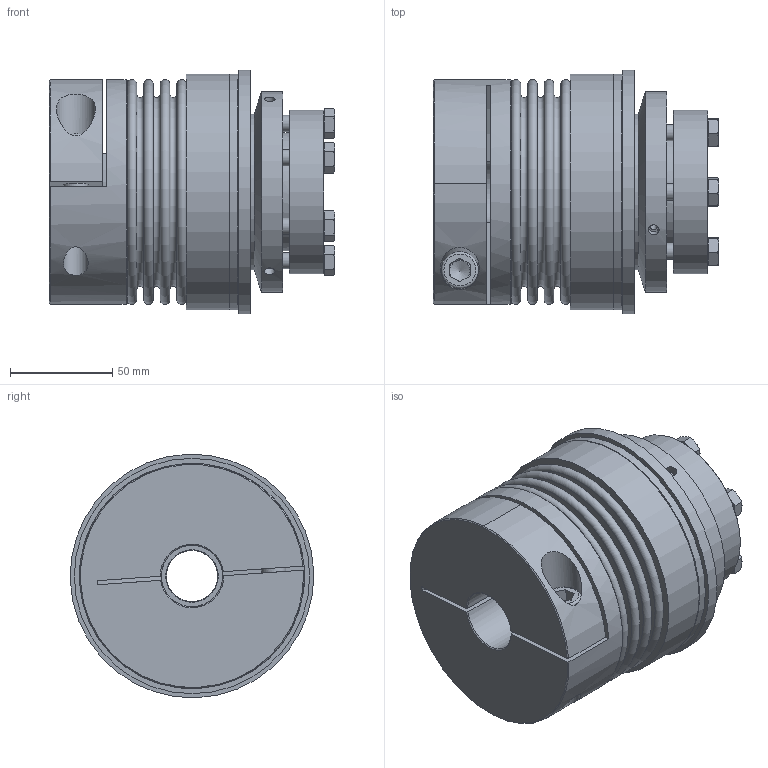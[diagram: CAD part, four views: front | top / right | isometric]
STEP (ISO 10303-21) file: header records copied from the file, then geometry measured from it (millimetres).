
FILE_DESCRIPTION( ( 'Unknown' ), '1' );
FILE_NAME( 'C:/Users/skarpstein/Desktop/Korrigierte 3D Modelle/KBK-B-KA/KBK-BKA-300-140.stp', 'Unknown', ( 'Unknown' ), ( 'Unknown' ), 'PSStep 16.0.42', 'Unknown', ' ' );
FILE_SCHEMA( ( 'AUTOMOTIVE_DESIGN { 1 0 10303 214 1 1 1 1 }' ) );
Length unit declared in the file: millimetre
Products named in the file (10): Assem1; Stellring 300; Druckring 300; Flansch BK300; KN300_Standard_2; Socket Head Cap Screw_DIN_DIN 912 M12 x 40 --- 40N_0; KBK L-A-300 Grundkörper; Druckring L-A-300; din_en_24017_m8x30; BK300_Standard_0
Assembly tree (14 placements, depth 2):
  Assem1
    Stellring 300
    Druckring 300
    Flansch BK300
    KN300_Standard_2
    Socket Head Cap Screw_DIN_DIN 912 M12 x 40 --- 40N_0
    KBK L-A-300 Grundkörper
    Druckring L-A-300
    din_en_24017_m8x30  x6
    BK300_Standard_0
Bounding box: 139.45 x 118.94 x 118.94 mm (x, y, z)
Volume: 764110.4 mm3; surface area: 227631.2 mm2
Topology: 14 solids, 14 shells, 304 faces, 640 edges, 410 vertices
Faces by surface type: plane 147, cone 73, cylinder 61, torus 23
Full cylindrical faces by diameter (mm): 3.242 x3, 5.2 x3, 6.647 x6, 8 x6, 8.5 x6, 11.63 x6, 12 x2, 12.5 x1, 18 x1, 19 x1, 25 x1, 30 x1, 52 x1, 55 x2, 57.995 x1, 76 x2, 80 x1, 83.5 x1, 88 x1, 90 x1, 98 x1, 98.5 x1, 99.8 x2, 101 x2, 110 x1, 115 x2, 119 x1
Entity records: 6941 total; most frequent: CARTESIAN_POINT 1367, DIRECTION 863, ORIENTED_EDGE 594, AXIS2_PLACEMENT_3D 394, EDGE_LOOP 342, EDGE_CURVE 297, FACE_OUTER_BOUND 257, VERTEX_POINT 246
